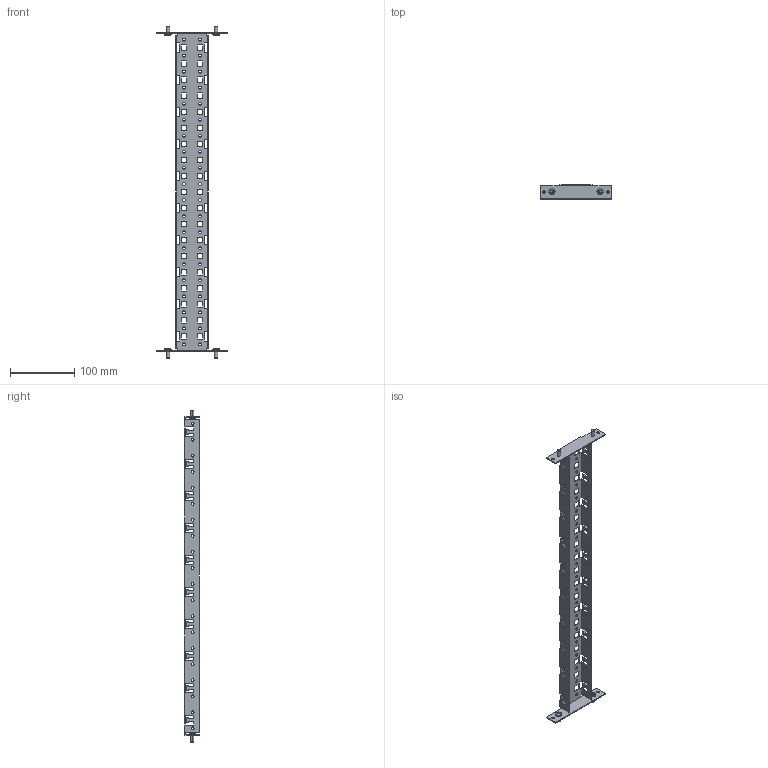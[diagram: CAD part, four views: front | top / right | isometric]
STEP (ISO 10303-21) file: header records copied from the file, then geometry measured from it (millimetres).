
FILE_DESCRIPTION(('Open CASCADE Model'),'2;1');
FILE_NAME('Open CASCADE Shape Model','2025-02-28T17:14:08',('Author'),( 'Open CASCADE'),'Open CASCADE STEP processor 7.8','Open CASCADE 7.8' ,'Unknown');
FILE_SCHEMA(('AUTOMOTIVE_DESIGN { 1 0 10303 214 1 1 1 1 }'));
Length unit declared in the file: millimetre
Products named in the file (3): Compound1; Solid1; Solid2
Assembly tree (5 placements, depth 2):
  Compound1
    Solid1
    Solid2  x4
Bounding box: 111 x 22.5 x 518 mm (x, y, z)
Volume: 64050.6 mm3; surface area: 93827.6 mm2
Topology: 5 solids, 5 shells, 782 faces, 2372 edges, 1556 vertices
Faces by surface type: plane 542, cylinder 192, cone 16, torus 16, bspline 8, sphere 8
Entity records: 25322 total; most frequent: CARTESIAN_POINT 4623, ORIENTED_EDGE 4440, DIRECTION 4018, EDGE_CURVE 2220, LINE 1830, VECTOR 1830, VERTEX_POINT 1475, AXIS2_PLACEMENT_3D 1094
